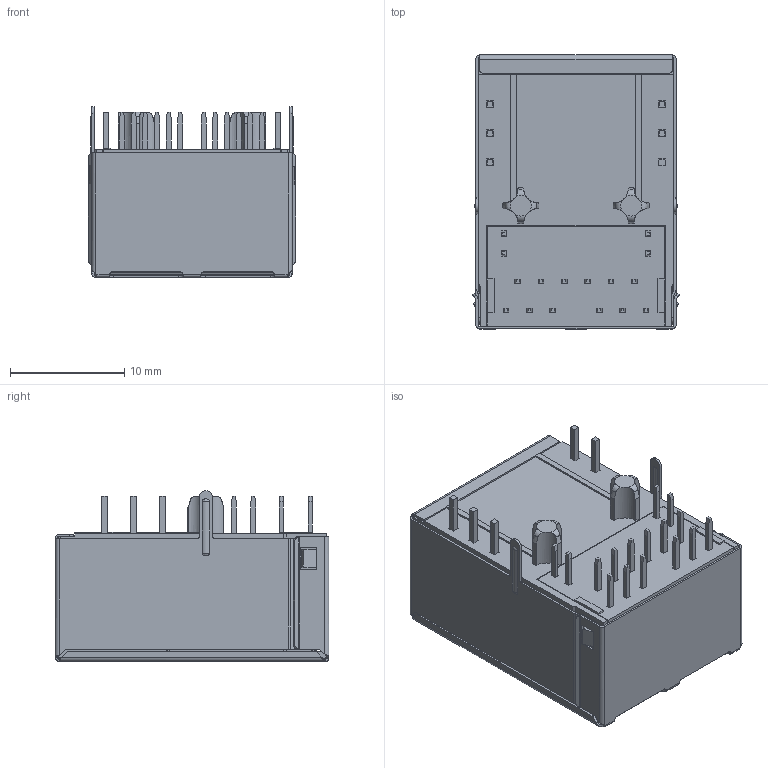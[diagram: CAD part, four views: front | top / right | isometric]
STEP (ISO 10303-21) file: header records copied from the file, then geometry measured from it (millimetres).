
FILE_DESCRIPTION((''),'2;1');
FILE_NAME('ASM0003_ASM_ASM','2025-02-20T10:36:56',('DGKYD'),(''),'CREO PARAMETRIC BY PTC INC, 2019010','CREO PARAMETRIC BY PTC INC, 2019010','');
FILE_SCHEMA(('CONFIG_CONTROL_DESIGN'));
Products named in the file (33): TK_14; PRT0002_39; PRT0007; PRT0008; PRT0009; PRT0010; PRT0011; PRT0012; PRT0013; PRT0014; ASM0004_ASM_ASM; PRT0015; PRT0016; PRT0017; PRT0018; PRT0019; PRT0020; PRT0021; PRT0022; PRT0023; PRT0024; PRT0025; PRT0026; ASM0005_ASM_ASM; P0E_7; PCB_9; PRT0027; PRT0028; KXPCB_6; PRT0038; PRT0039; ZT_11; ASM0003_ASM_ASM
Assembly tree (35 placements, depth 3):
  ASM0003_ASM_ASM
    TK_14
    PRT0002_39
    ASM0004_ASM_ASM
      PRT0007
      PRT0008
      PRT0009
      PRT0010
      PRT0011
      PRT0012
      PRT0013
      PRT0014
    ASM0005_ASM_ASM
      PRT0015
      PRT0016
      PRT0017
      PRT0018
      PRT0019
      PRT0020
      PRT0021
      PRT0022
      PRT0023
      PRT0024
      PRT0025
      PRT0026
    P0E_7  x4
    PCB_9
    PRT0027
    PRT0028
    KXPCB_6
    PRT0038
    PRT0039
    ZT_11
Bounding box: 18.13 x 23.96 x 14.95 mm (x, y, z)
Volume: 3055.9 mm3; surface area: 9913.8 mm2
Topology: 33 solids, 35 shells, 3279 faces, 9293 edges, 6104 vertices
Faces by surface type: plane 2191, cylinder 1048, bspline 12, torus 12, sphere 8, cone 8
Entity records: 99651 total; most frequent: CARTESIAN_POINT 18283, ORIENTED_EDGE 17130, DIRECTION 16609, EDGE_CURVE 8565, VECTOR 6511, LINE 6511, VERTEX_POINT 5624, AXIS2_PLACEMENT_3D 5049
